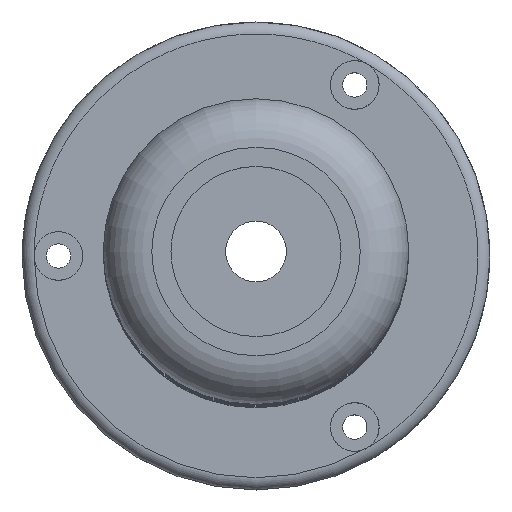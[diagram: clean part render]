
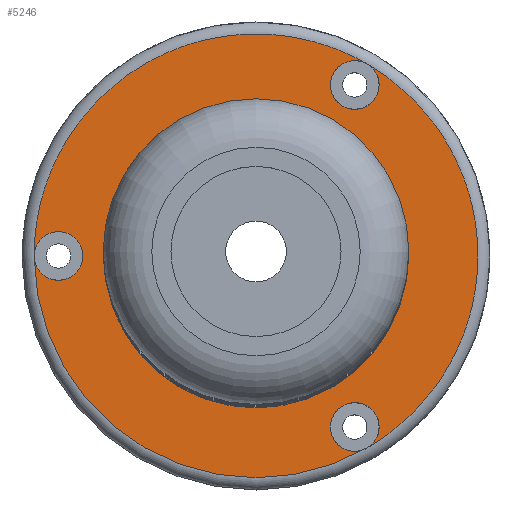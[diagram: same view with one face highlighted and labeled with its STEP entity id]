
A CAD part, top view. The second image highlights one B-rep face of the part: STEP entity #5246.
In plain terms, the highlighted planar face has unit normal (0, 0, -1).
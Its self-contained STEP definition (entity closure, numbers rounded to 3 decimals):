
#2117=PLANE('',#46052);
#3074=FACE_BOUND('',#10697,.T.);
#3075=FACE_BOUND('',#10698,.T.);
#3076=FACE_BOUND('',#10699,.T.);
#3077=FACE_BOUND('',#10700,.T.);
#3078=FACE_BOUND('',#10701,.T.);
#5246=ADVANCED_FACE('',(#3074,#3075,#3076,#3077,#3078),#2117,.T.);
#10697=EDGE_LOOP('',(#30906));
#10698=EDGE_LOOP('',(#30907));
#10699=EDGE_LOOP('',(#30908));
#10700=EDGE_LOOP('',(#30909));
#10701=EDGE_LOOP('',(#30910));
#30906=ORIENTED_EDGE('',*,*,#42436,.T.);
#30907=ORIENTED_EDGE('',*,*,#42437,.T.);
#30908=ORIENTED_EDGE('',*,*,#42438,.T.);
#30909=ORIENTED_EDGE('',*,*,#42439,.T.);
#30910=ORIENTED_EDGE('',*,*,#42426,.F.);
#36912=VERTEX_POINT('',#75154);
#36922=VERTEX_POINT('',#75308);
#36923=VERTEX_POINT('',#75310);
#36924=VERTEX_POINT('',#75312);
#36925=VERTEX_POINT('',#75314);
#42426=EDGE_CURVE('',#36912,#36912,#43982,.T.);
#42436=EDGE_CURVE('',#36922,#36922,#43990,.T.);
#42437=EDGE_CURVE('',#36923,#36923,#43991,.T.);
#42438=EDGE_CURVE('',#36924,#36924,#43992,.T.);
#42439=EDGE_CURVE('',#36925,#36925,#43993,.T.);
#43982=CIRCLE('',#46036,10.75);
#43990=CIRCLE('',#46048,2.);
#43991=CIRCLE('',#46049,2.);
#43992=CIRCLE('',#46050,2.);
#43993=CIRCLE('',#46051,38.);
#46036=AXIS2_PLACEMENT_3D('',#75153,#54223,#54224);
#46048=AXIS2_PLACEMENT_3D('',#75307,#54247,#54248);
#46049=AXIS2_PLACEMENT_3D('',#75309,#54249,#54250);
#46050=AXIS2_PLACEMENT_3D('',#75311,#54251,#54252);
#46051=AXIS2_PLACEMENT_3D('',#75313,#54253,#54254);
#46052=AXIS2_PLACEMENT_3D('',#75315,#54255,#54256);
#54223=DIRECTION('',(0.,0.,-1.));
#54224=DIRECTION('',(-1.,0.,0.));
#54247=DIRECTION('',(0.,0.,1.));
#54248=DIRECTION('',(1.,0.,0.));
#54249=DIRECTION('',(0.,0.,1.));
#54250=DIRECTION('',(1.,0.,0.));
#54251=DIRECTION('',(0.,0.,1.));
#54252=DIRECTION('',(1.,0.,0.));
#54253=DIRECTION('',(0.,0.,-1.));
#54254=DIRECTION('',(-1.,0.,0.));
#54255=DIRECTION('',(0.,0.,-1.));
#54256=DIRECTION('',(1.,0.,0.));
#75153=CARTESIAN_POINT('',(400.,-200.,-167.702));
#75154=CARTESIAN_POINT('',(389.25,-200.,-167.702));
#75307=CARTESIAN_POINT('',(416.25,-171.854,-167.702));
#75308=CARTESIAN_POINT('',(418.25,-171.854,-167.702));
#75309=CARTESIAN_POINT('',(416.25,-228.146,-167.702));
#75310=CARTESIAN_POINT('',(418.25,-228.146,-167.702));
#75311=CARTESIAN_POINT('',(367.5,-200.,-167.702));
#75312=CARTESIAN_POINT('',(369.5,-200.,-167.702));
#75313=CARTESIAN_POINT('',(400.,-200.,-167.702));
#75314=CARTESIAN_POINT('',(362.,-200.,-167.702));
#75315=CARTESIAN_POINT('',(400.,-200.,-167.702));
